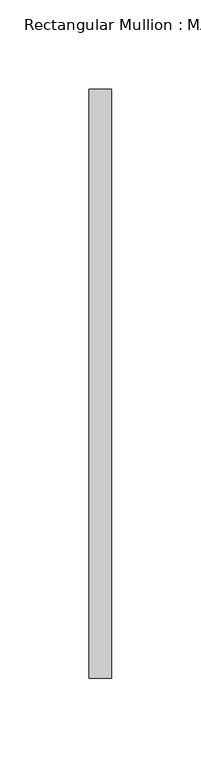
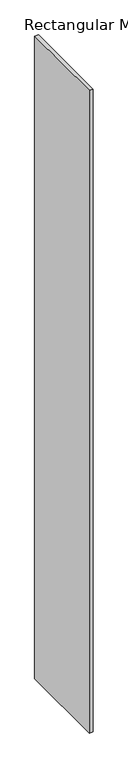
"""IFC4 building model written with IfcOpenShell, lengths in millimetres: member geometry, Rectangular Mullion : MARBLE PORTAL."""

from ifc_helpers import new_model, si_unit, frame, origin, place, context, project, spatial, polyline, outline, extrude, source, transform, mapped, element, save


def rectangular_mullion_marble_portal_3496a1fa(model_context):
    return source(origin(), model_context, "Body", "SweptSolid", [
        extrude(outline(polyline([(6.35, 190.5), (6.35, -139.7), (-6.35, -139.7), (-6.35, 190.5), (6.35, 190.5)])), frame((0.0, 0.0, -2368.55), z_axis=(0.0, 0.0, 1.0), x_axis=(1.0, 0.0, 0.0)), (0.0, 0.0, 1.0), 2368.55),
    ])


if __name__ == "__main__":
    model = new_model("IFC4")
    model_context = context("Model", 3, world=origin())
    ifc_project = project(units=[si_unit("LENGTHUNIT", "METRE", prefix="MILLI")], contexts=[model_context])
    site = spatial("IfcSite", under=ifc_project)
    building = spatial("IfcBuilding", under=site)
    placement = place(None, origin())
    rectangular_mullion_marble_portal_shape = rectangular_mullion_marble_portal_3496a1fa(model_context)
    element("IfcMember", 1, ObjectType="Rectangular Mullion : MARBLE PORTAL", at=placement, inside=building, context=model_context, shape_type="MappedRepresentation", body=[
        mapped(rectangular_mullion_marble_portal_shape, transform((0.0, 0.0, 0.0), x_axis=(1.0, 0.0, 0.0), y_axis=(0.0, 1.0, 0.0), z_axis=(0.0, 0.0, 1.0))),
    ])
    save(model, "model.ifc")
